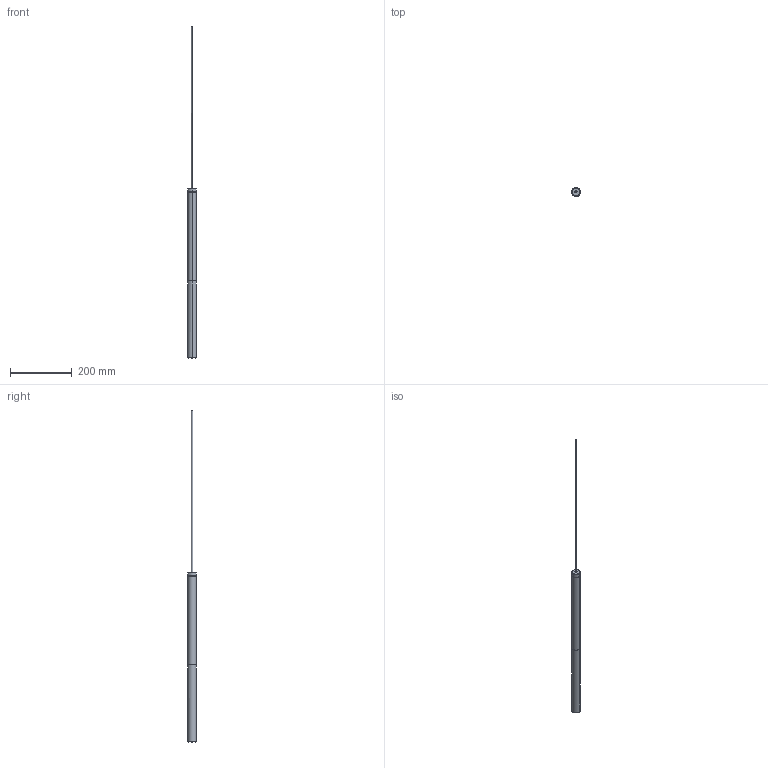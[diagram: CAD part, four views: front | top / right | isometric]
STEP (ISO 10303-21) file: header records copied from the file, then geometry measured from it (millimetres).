
FILE_DESCRIPTION(/* description */ (''),/* implementation_level */ '2;1');
FILE_NAME(/* name */ 'M095__.000',/* time_stamp */ '2024-07-08T12:30:41+02:00',/* author */ (''),/* organization */ (''),/* preprocessor_version */ 'ST-DEVELOPER v16.5',/* originating_system */ '',/* authorisation */ '');
FILE_SCHEMA (('AUTOMOTIVE_DESIGN'));
Length unit declared in the file: millimetre
Products named in the file (5): Document; 3400.0080000.00 (cavo FEP+PVC 2x0,75 trasparente)_3401.0080600.00; Blocco 21; Blocco 22; Blocco 23
Assembly tree (4 placements, depth 3):
  Document
    3400.0080000.00 (cavo FEP+PVC 2x0,75 trasparente)_3401.0080600.00
      Blocco 21
      Blocco 22
      Blocco 23
Bounding box: 28.95 x 29 x 1077.6 mm (x, y, z)
Volume: 114821.5 mm3; surface area: 109617.9 mm2
Topology: 1 solids, 17 shells, 63 faces, 160 edges, 122 vertices
Faces by surface type: bspline 46, plane 17
Entity records: 3915 total; most frequent: CARTESIAN_POINT 2871, ORIENTED_EDGE 260, EDGE_CURVE 160, VERTEX_POINT 122, EDGE_LOOP 74, ADVANCED_FACE 63, FACE_OUTER_BOUND 63, B_SPLINE_CURVE_WITH_KNOTS 56
